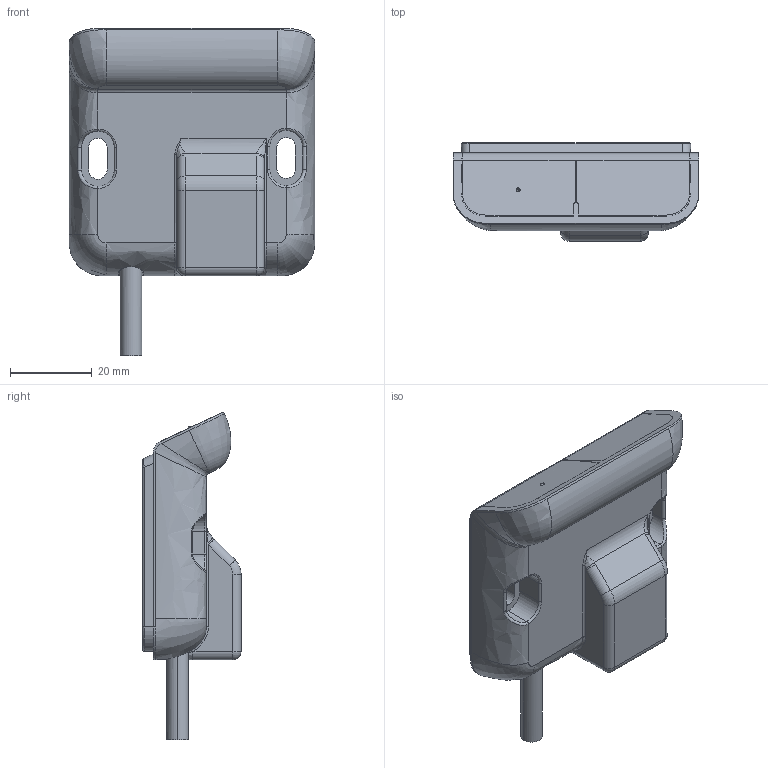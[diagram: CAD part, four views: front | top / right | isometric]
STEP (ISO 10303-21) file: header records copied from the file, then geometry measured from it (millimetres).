
FILE_DESCRIPTION (( 'STEP AP203' ), '1' );
FILE_NAME ('產品三維模型圖-TDH16-A.STEP', '2018-06-27T09:31:12', ( '' ), ( '' ), 'SwSTEP 2.0', 'SolidWorks 2015', '' );
FILE_SCHEMA (( 'CONFIG_CONTROL_DESIGN' ));
Products named in the file (1): 產品三維模型圖-TDH16-A
Bounding box: 60 x 24 x 80.11 mm (x, y, z)
Volume: 53249.1 mm3; surface area: 20580.9 mm2
Topology: 7 solids, 7 shells, 442 faces, 1160 edges, 733 vertices
Faces by surface type: plane 185, cylinder 129, bspline 77, torus 43, sphere 4, cone 4
Entity records: 30217 total; most frequent: CARTESIAN_POINT 19946, ORIENTED_EDGE 2300, DIRECTION 1862, EDGE_CURVE 1150, VERTEX_POINT 733, AXIS2_PLACEMENT_3D 624, VECTOR 614, LINE 614
